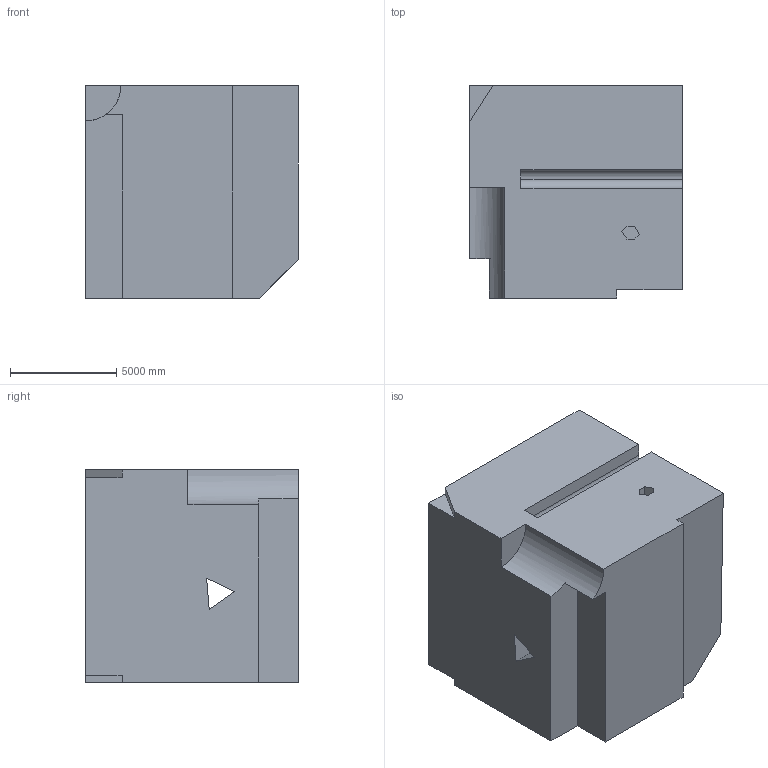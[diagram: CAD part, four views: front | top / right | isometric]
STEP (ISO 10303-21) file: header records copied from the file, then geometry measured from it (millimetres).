
FILE_DESCRIPTION (( 'STEP AP203' ), '1' );
FILE_NAME ('198.STEP', '2022-09-06T13:42:02', ( 'user' ), ( '' ), 'SwSTEP 2.0', 'SolidWorks 2021', '' );
FILE_SCHEMA (( 'CONFIG_CONTROL_DESIGN' ));
Length unit declared in the file: centimetre
Products named in the file (1): 198
Bounding box: 10000 x 10000 x 10000 mm (x, y, z)
Volume: 906378677472.6 mm3; surface area: 654903250.2 mm2
Topology: 1 solids, 1 shells, 37 faces, 102 edges, 68 vertices
Faces by surface type: plane 32, cylinder 5
Entity records: 1248 total; most frequent: CARTESIAN_POINT 214, ORIENTED_EDGE 204, DIRECTION 187, EDGE_CURVE 102, VECTOR 89, LINE 89, VERTEX_POINT 68, AXIS2_PLACEMENT_3D 49
